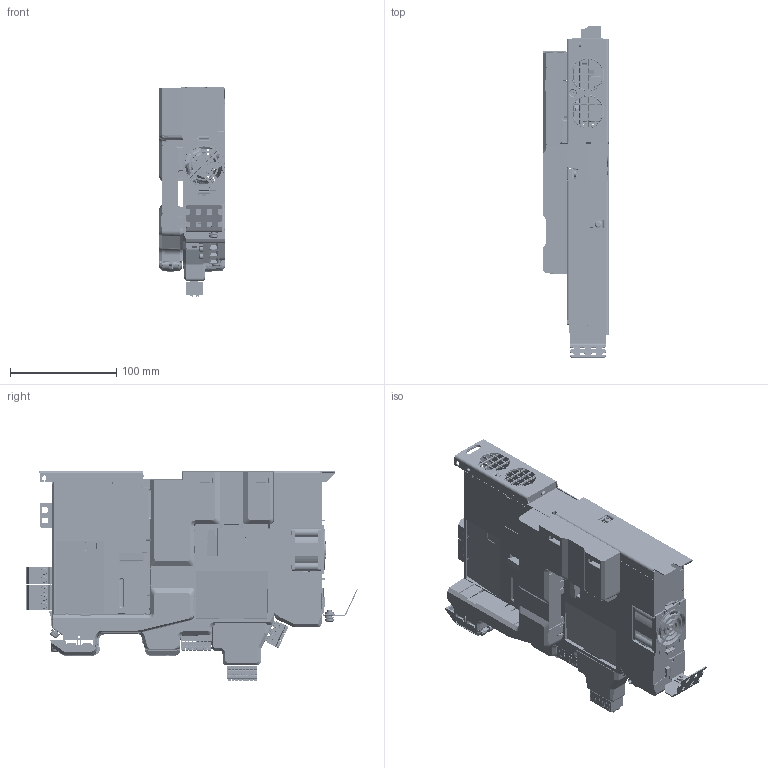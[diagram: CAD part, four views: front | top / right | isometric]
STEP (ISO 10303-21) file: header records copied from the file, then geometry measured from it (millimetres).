
FILE_DESCRIPTION((''),'2;1');
FILE_NAME('RR_FR02_WITH_ACC','2017-09-07T',('spatil4'),(''),'PRO/ENGINEER BY PARAMETRIC TECHNOLOGY CORPORATION, 2011490','PRO/ENGINEER BY PARAMETRIC TECHNOLOGY CORPORATION, 2011490','');
FILE_SCHEMA(('STRUCTURAL_ANALYSIS_DESIGN'));
Products named in the file (1): RR_FR02_WITH_ACC
Bounding box: 62.55 x 312.64 x 197.91 mm (x, y, z)
Surface area: 556339.8 mm2 (no closed solid volume)
Topology: 0 solids, 844 shells, 7009 faces, 39220 edges, 31873 vertices
Faces by surface type: plane 4263, cylinder 1902, cone 332, bspline 302, torus 188, sphere 15, extrusion 7
Entity records: 418388 total; most frequent: CARTESIAN_POINT 139612, DIRECTION 50608, ORIENTED_EDGE 50485, EDGE_CURVE 39213, VERTEX_POINT 31872, VECTOR 24614, LINE 24607, AXIS2_PLACEMENT_3D 12997
